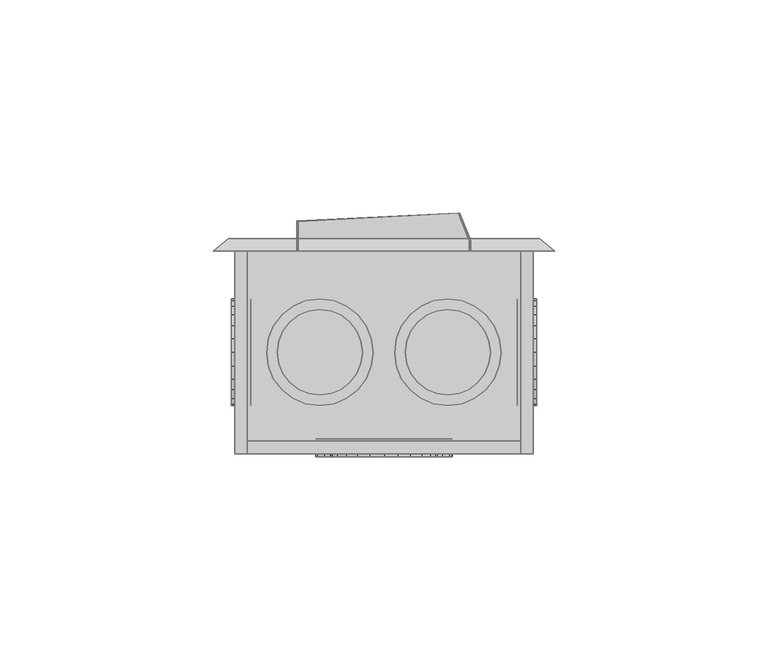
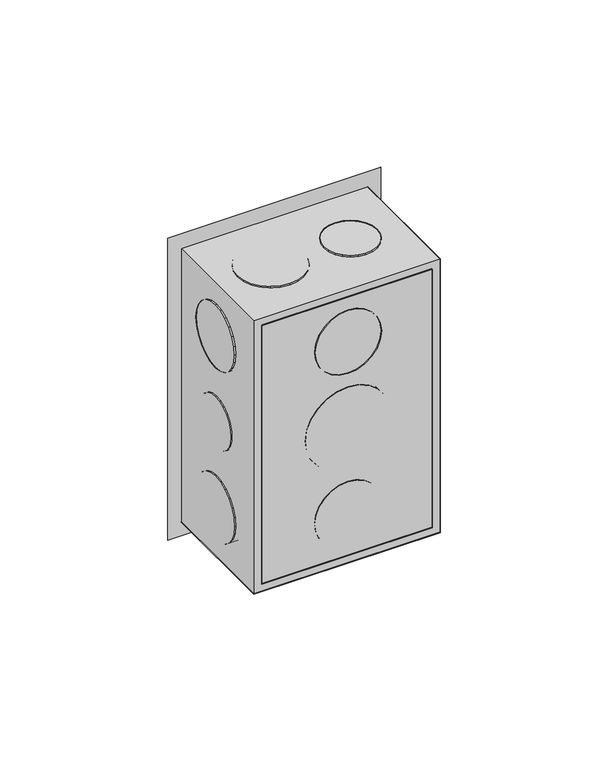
"""IFC4 building model written with IfcOpenShell, lengths in millimetres: proxy geometry,  210553 :  210553."""

from ifc_helpers import new_model, si_unit, origin, place, context, project, spatial, triangles, source, transform, mapped, element, save


def generic_models_f89abd0f(model_context):
    return source(origin(), model_context, "Body", "Tessellation", [
        triangles([(19915.700647, 15395.8997864, 1254.3000378), (19918.7004639, 15395.8997864, 1148.7000154), (19915.700647, 15395.8997864, 1145.6999805), (19918.7004639, 15395.8997864, 1251.2999302), (19985.7010254, 15395.8997864, 1254.3000378), (19982.6988831, 15395.8997864, 1251.2999302), (19985.7010254, 15395.8997864, 1145.6999805), (19982.6988831, 15395.8997864, 1148.7000154), (19918.7004639, 15348.4003601, 1251.2999302), (19918.7004639, 15348.4003601, 1148.7000154), (19985.7010254, 15348.4003601, 1254.3000378), (19985.7010254, 15348.4003601, 1145.6999805), (19982.6988831, 15348.4003601, 1251.2999302), (19915.700647, 15348.4003601, 1145.6999805), (19982.6988831, 15348.4003601, 1148.7000154), (19915.700647, 15348.4003601, 1254.3000378), (19918.7004639, 15351.400177, 1251.2999302), (19982.6988831, 15351.400177, 1148.7000154), (19918.7004639, 15351.400177, 1148.7000154), (19982.6988831, 15351.400177, 1251.2999302), (19942.698999, 15347.7004028, 1186.0999855), (19936.7993591, 15347.7004028, 1191.9999887), (19939.3992004, 15347.7004028, 1188.6999722), (19946.5010925, 15347.7004028, 1184.5000105), (19935.1994568, 15347.7004028, 1195.8999687), (19950.7008362, 15347.7004028, 1183.9999683), (19934.6994873, 15347.7004028, 1200.0000092), (19954.8005859, 15347.7004028, 1184.5000105), (19935.1994568, 15347.7004028, 1204.0999769), (19958.7003479, 15347.7004028, 1186.0999855), (19936.7993591, 15347.7004028, 1208.0000296), (19962.0001465, 15347.7004028, 1188.6999722), (19939.3992004, 15347.7004028, 1211.2999735), (19964.4999939, 15347.7004028, 1191.9999887), (19942.698999, 15347.7004028, 1213.9000328), (19966.0998962, 15347.7004028, 1195.8999687), (19946.5010925, 15347.7004028, 1215.5000078), (19966.6998596, 15347.7004028, 1200.0000092), (19950.7008362, 15347.7004028, 1215.9999773), (19966.0998962, 15347.7004028, 1204.0999769), (19954.8005859, 15347.7004028, 1215.5000078), (19964.4999939, 15347.7004028, 1208.0000296), (19958.7003479, 15347.7004028, 1213.9000328), (19962.0001465, 15347.7004028, 1211.2999735), (19946.5010925, 15351.9001465, 1215.5000078), (19950.7008362, 15351.9001465, 1215.9999773), (19942.698999, 15351.9001465, 1213.9000328), (19939.3992004, 15351.9001465, 1211.2999735), (19936.7993591, 15351.9001465, 1208.0000296), (19935.1994568, 15351.9001465, 1204.0999769), (19934.6994873, 15351.9001465, 1200.0000092), (19935.1994568, 15351.9001465, 1195.8999687), (19936.7993591, 15351.9001465, 1191.9999887), (19939.3992004, 15351.9001465, 1188.6999722), (19942.698999, 15351.9001465, 1186.0999855), (19946.5010925, 15351.9001465, 1184.5000105), (19950.7008362, 15351.9001465, 1183.9999683), (19954.8005859, 15351.9001465, 1184.5000105), (19958.7003479, 15351.9001465, 1186.0999855), (19962.0001465, 15351.9001465, 1188.6999722), (19964.4999939, 15351.9001465, 1191.9999887), (19966.0998962, 15351.9001465, 1195.8999687), (19966.6998596, 15351.9001465, 1200.0000092), (19966.0998962, 15351.9001465, 1204.0999769), (19964.4999939, 15351.9001465, 1208.0000296), (19962.0001465, 15351.9001465, 1211.2999735), (19958.7003479, 15351.9001465, 1213.9000328), (19954.8005859, 15351.9001465, 1215.5000078), (19939.799176, 15351.9001465, 1227.8000565), (19944.3988953, 15351.9001465, 1223.2000465), (19941.799054, 15351.9001465, 1225.2000698), (19938.5992493, 15351.9001465, 1230.8000187), (19947.4010376, 15351.9001465, 1221.8999805), (19938.1992737, 15351.9001465, 1233.9999687), (19950.7008362, 15351.9001465, 1221.500005), (19938.5992493, 15351.9001465, 1237.2000641), (19953.9006409, 15351.9001465, 1221.8999805), (19939.799176, 15351.9001465, 1240.3000202), (19956.9004578, 15351.9001465, 1223.2000465), (19941.799054, 15351.9001465, 1242.800013), (19959.5002991, 15351.9001465, 1225.2000698), (19961.500177, 15351.9001465, 1227.8000565), (19944.3988953, 15351.9001465, 1244.8000362), (19947.4010376, 15351.9001465, 1246.0999569), (19962.7001038, 15351.9001465, 1230.8000187), (19950.7008362, 15351.9001465, 1246.4999325), (19963.2000732, 15351.9001465, 1233.9999687), (19953.9006409, 15351.9001465, 1246.0999569), (19962.7001038, 15351.9001465, 1237.2000641), (19961.500177, 15351.9001465, 1240.3000202), (19956.9004578, 15351.9001465, 1244.8000362), (19959.5002991, 15351.9001465, 1242.800013), (19962.7001038, 15347.7004028, 1230.8000187), (19961.500177, 15347.7004028, 1227.8000565), (19959.5002991, 15347.7004028, 1225.2000698), (19956.9004578, 15347.7004028, 1223.2000465), (19953.9006409, 15347.7004028, 1221.8999805), (19950.7008362, 15347.7004028, 1221.500005), (19947.4010376, 15347.7004028, 1221.8999805), (19944.3988953, 15347.7004028, 1223.2000465), (19941.799054, 15347.7004028, 1225.2000698), (19939.799176, 15347.7004028, 1227.8000565), (19938.5992493, 15347.7004028, 1230.8000187), (19938.1992737, 15347.7004028, 1233.9999687), (19938.5992493, 15347.7004028, 1237.2000641), (19939.799176, 15347.7004028, 1240.3000202), (19941.799054, 15347.7004028, 1242.800013), (19944.3988953, 15347.7004028, 1244.8000362), (19947.4010376, 15347.7004028, 1246.0999569), (19950.7008362, 15347.7004028, 1246.4999325), (19953.9006409, 15347.7004028, 1246.0999569), (19956.9004578, 15347.7004028, 1244.8000362), (19959.5002991, 15347.7004028, 1242.800013), (19961.500177, 15347.7004028, 1240.3000202), (19962.7001038, 15347.7004028, 1237.2000641), (19963.2000732, 15347.7004028, 1233.9999687), (19944.3988953, 15347.7004028, 1155.1999821), (19939.799176, 15347.7004028, 1159.6999981), (19941.799054, 15347.7004028, 1157.2000053), (19947.4010376, 15347.7004028, 1153.8999887), (19938.5992493, 15347.7004028, 1162.8000269), (19950.7008362, 15347.7004028, 1153.5000132), (19938.1992737, 15347.7004028, 1165.9999769), (19953.9006409, 15347.7004028, 1153.8999887), (19938.5992493, 15347.7004028, 1169.1999996), (19956.9004578, 15347.7004028, 1155.1999821), (19939.799176, 15347.7004028, 1172.2000345), (19959.5002991, 15347.7004028, 1157.2000053), (19941.799054, 15347.7004028, 1174.8000212), (19961.500177, 15347.7004028, 1159.6999981), (19944.3988953, 15347.7004028, 1176.7999718), (19962.7001038, 15347.7004028, 1162.8000269), (19947.4010376, 15347.7004028, 1178.0999651), (19950.7008362, 15347.7004028, 1178.5000134), (19963.2000732, 15347.7004028, 1165.9999769), (19962.7001038, 15347.7004028, 1169.1999996), (19953.9006409, 15347.7004028, 1178.0999651), (19961.500177, 15347.7004028, 1172.2000345), (19956.9004578, 15347.7004028, 1176.7999718), (19959.5002991, 15347.7004028, 1174.8000212), (19947.4010376, 15351.9001465, 1178.0999651), (19950.7008362, 15351.9001465, 1178.5000134), (19944.3988953, 15351.9001465, 1176.7999718), (19941.799054, 15351.9001465, 1174.8000212), (19939.799176, 15351.9001465, 1172.2000345), (19938.5992493, 15351.9001465, 1169.1999996), (19938.1992737, 15351.9001465, 1165.9999769), (19938.5992493, 15351.9001465, 1162.8000269), (19939.799176, 15351.9001465, 1159.6999981), (19941.799054, 15351.9001465, 1157.2000053), (19944.3988953, 15351.9001465, 1155.1999821), (19947.4010376, 15351.9001465, 1153.8999887), (19950.7008362, 15351.9001465, 1153.5000132), (19953.9006409, 15351.9001465, 1153.8999887), (19956.9004578, 15351.9001465, 1155.1999821), (19959.5002991, 15351.9001465, 1157.2000053), (19961.500177, 15351.9001465, 1159.6999981), (19962.7001038, 15351.9001465, 1162.8000269), (19963.2000732, 15351.9001465, 1165.9999769), (19962.7001038, 15351.9001465, 1169.1999996), (19961.500177, 15351.9001465, 1172.2000345), (19959.5002991, 15351.9001465, 1174.8000212), (19956.9004578, 15351.9001465, 1176.7999718), (19953.9006409, 15351.9001465, 1178.0999651), (19914.9006958, 15363.4994385, 1195.0000237), (19914.9006958, 15367.2003754, 1191.3000315), (19914.9006958, 15365.1005035, 1192.9000065), (19914.9006958, 15362.4994995, 1197.4000225), (19914.9006958, 15369.6002289, 1190.3000198), (19914.9006958, 15362.1995178, 1200.0000092), (19914.9006958, 15372.2000702, 1189.9999655), (19914.9006958, 15362.4994995, 1202.5999958), (19914.9006958, 15374.7999115, 1190.3000198), (19914.9006958, 15363.4994385, 1204.9999947), (19914.9006958, 15377.199765, 1191.3000315), (19914.9006958, 15365.1005035, 1207.1000118), (19914.9006958, 15379.2996368, 1192.9000065), (19914.9006958, 15367.2003754, 1208.6999868), (19914.9006958, 15380.8995392, 1195.0000237), (19914.9006958, 15369.6002289, 1209.6999985), (19914.9006958, 15381.8994781, 1197.4000225), (19914.9006958, 15382.1994598, 1200.0000092), (19914.9006958, 15372.2000702, 1209.9999802), (19914.9006958, 15374.7999115, 1209.6999985), (19914.9006958, 15381.8994781, 1202.5999958), (19914.9006958, 15377.199765, 1208.6999868), (19914.9006958, 15380.8995392, 1204.9999947), (19914.9006958, 15379.2996368, 1207.1000118), (19919.500415, 15369.6002289, 1209.6999985), (19919.500415, 15372.2000702, 1209.9999802), (19919.500415, 15374.7999115, 1209.6999985), (19919.500415, 15377.199765, 1208.6999868), (19919.500415, 15379.2996368, 1207.1000118), (19919.500415, 15380.8995392, 1204.9999947), (19919.500415, 15381.8994781, 1202.5999958), (19919.500415, 15382.1994598, 1200.0000092), (19919.500415, 15381.8994781, 1197.4000225), (19919.500415, 15380.8995392, 1195.0000237), (19919.500415, 15379.2996368, 1192.9000065), (19919.500415, 15377.199765, 1191.3000315), (19919.500415, 15374.7999115, 1190.3000198), (19919.500415, 15372.2000702, 1189.9999655), (19919.500415, 15369.6002289, 1190.3000198), (19919.500415, 15367.2003754, 1191.3000315), (19919.500415, 15365.1005035, 1192.9000065), (19919.500415, 15363.4994385, 1195.0000237), (19919.500415, 15362.4994995, 1197.4000225), (19919.500415, 15362.1995178, 1200.0000092), (19919.500415, 15362.4994995, 1202.5999958), (19919.500415, 15363.4994385, 1204.9999947), (19919.500415, 15365.1005035, 1207.1000118), (19919.500415, 15367.2003754, 1208.6999868), (19919.500415, 15365.9004547, 1223.2000465), (19919.500415, 15361.3995667, 1227.8000565), (19919.500415, 15363.3994446, 1225.2000698), (19919.500415, 15369.0002655, 1221.8999805), (19919.500415, 15360.099646, 1230.8000187), (19919.500415, 15359.6996704, 1233.9999687), (19919.500415, 15372.2000702, 1221.500005), (19919.500415, 15375.3998749, 1221.8999805), (19919.500415, 15360.099646, 1237.2000641), (19919.500415, 15361.3995667, 1240.3000202), (19919.500415, 15378.3996918, 1223.2000465), (19919.500415, 15380.9995331, 1225.2000698), (19919.500415, 15363.3994446, 1242.800013), (19919.500415, 15383.0005737, 1227.8000565), (19919.500415, 15365.9004547, 1244.8000362), (19919.500415, 15384.3004944, 1230.8000187), (19919.500415, 15369.0002655, 1246.0999569), (19919.500415, 15384.70047, 1233.9999687), (19919.500415, 15372.2000702, 1246.4999325), (19919.500415, 15384.3004944, 1237.2000641), (19919.500415, 15375.3998749, 1246.0999569), (19919.500415, 15383.0005737, 1240.3000202), (19919.500415, 15378.3996918, 1244.8000362), (19919.500415, 15380.9995331, 1242.800013), (19914.9006958, 15372.2000702, 1221.500005), (19914.9006958, 15369.0002655, 1221.8999805), (19914.9006958, 15375.3998749, 1221.8999805), (19914.9006958, 15378.3996918, 1223.2000465), (19914.9006958, 15380.9995331, 1225.2000698), (19914.9006958, 15383.0005737, 1227.8000565), (19914.9006958, 15384.3004944, 1230.8000187), (19914.9006958, 15384.70047, 1233.9999687), (19914.9006958, 15384.3004944, 1237.2000641), (19914.9006958, 15383.0005737, 1240.3000202), (19914.9006958, 15380.9995331, 1242.800013), (19914.9006958, 15378.3996918, 1244.8000362), (19914.9006958, 15375.3998749, 1246.0999569), (19914.9006958, 15372.2000702, 1246.4999325), (19914.9006958, 15369.0002655, 1246.0999569), (19914.9006958, 15365.9004547, 1244.8000362), (19914.9006958, 15363.3994446, 1242.800013), (19914.9006958, 15361.3995667, 1240.3000202), (19914.9006958, 15360.099646, 1237.2000641), (19914.9006958, 15359.6996704, 1233.9999687), (19914.9006958, 15360.099646, 1230.8000187), (19914.9006958, 15361.3995667, 1227.8000565), (19914.9006958, 15363.3994446, 1225.2000698), (19914.9006958, 15365.9004547, 1223.2000465), (19914.9006958, 15361.3995667, 1159.6999981), (19914.9006958, 15365.9004547, 1155.1999821), (19914.9006958, 15363.3994446, 1157.2000053), (19914.9006958, 15360.099646, 1162.8000269), (19914.9006958, 15369.0002655, 1153.8999887), (19914.9006958, 15359.6996704, 1165.9999769), (19914.9006958, 15372.2000702, 1153.5000132), (19914.9006958, 15360.099646, 1169.1999996), (19914.9006958, 15375.3998749, 1153.8999887), (19914.9006958, 15361.3995667, 1172.2000345), (19914.9006958, 15378.3996918, 1155.1999821), (19914.9006958, 15363.3994446, 1174.8000212), (19914.9006958, 15380.9995331, 1157.2000053), (19914.9006958, 15365.9004547, 1176.7999718), (19914.9006958, 15383.0005737, 1159.6999981), (19914.9006958, 15369.0002655, 1178.0999651), (19914.9006958, 15384.3004944, 1162.8000269), (19914.9006958, 15372.2000702, 1178.5000134), (19914.9006958, 15384.70047, 1165.9999769), (19914.9006958, 15375.3998749, 1178.0999651), (19914.9006958, 15384.3004944, 1169.1999996), (19914.9006958, 15378.3996918, 1176.7999718), (19914.9006958, 15383.0005737, 1172.2000345), (19914.9006958, 15380.9995331, 1174.8000212), (19919.500415, 15369.0002655, 1178.0999651), (19919.500415, 15372.2000702, 1178.5000134), (19919.500415, 15375.3998749, 1178.0999651), (19919.500415, 15378.3996918, 1176.7999718), (19919.500415, 15380.9995331, 1174.8000212), (19919.500415, 15383.0005737, 1172.2000345), (19919.500415, 15384.3004944, 1169.1999996), (19919.500415, 15384.70047, 1165.9999769), (19919.500415, 15384.3004944, 1162.8000269), (19919.500415, 15383.0005737, 1159.6999981), (19919.500415, 15380.9995331, 1157.2000053), (19919.500415, 15378.3996918, 1155.1999821), (19919.500415, 15375.3998749, 1153.8999887), (19919.500415, 15372.2000702, 1153.5000132), (19919.500415, 15369.0002655, 1153.8999887), (19919.500415, 15365.9004547, 1155.1999821), (19919.500415, 15363.3994446, 1157.2000053), (19919.500415, 15361.3995667, 1159.6999981), (19919.500415, 15360.099646, 1162.8000269), (19919.500415, 15359.6996704, 1165.9999769), (19919.500415, 15360.099646, 1169.1999996), (19919.500415, 15361.3995667, 1172.2000345), (19919.500415, 15363.3994446, 1174.8000212), (19919.500415, 15365.9004547, 1176.7999718), (19986.5009766, 15367.2003754, 1191.3000315), (19986.5009766, 15363.4994385, 1195.0000237), (19986.5009766, 15365.1005035, 1192.9000065), (19986.5009766, 15362.4994995, 1197.4000225), (19986.5009766, 15369.6002289, 1190.3000198), (19986.5009766, 15362.1995178, 1200.0000092), (19986.5009766, 15372.2000702, 1189.9999655), (19986.5009766, 15374.7999115, 1190.3000198), (19986.5009766, 15362.4994995, 1202.5999958), (19986.5009766, 15363.4994385, 1204.9999947), (19986.5009766, 15377.199765, 1191.3000315), (19986.5009766, 15365.1005035, 1207.1000118), (19986.5009766, 15379.2996368, 1192.9000065), (19986.5009766, 15380.8995392, 1195.0000237), (19986.5009766, 15367.2003754, 1208.6999868), (19986.5009766, 15381.8994781, 1197.4000225), (19986.5009766, 15369.6002289, 1209.6999985), (19986.5009766, 15382.1994598, 1200.0000092), (19986.5009766, 15372.2000702, 1209.9999802), (19986.5009766, 15381.8994781, 1202.5999958), (19986.5009766, 15374.7999115, 1209.6999985), (19986.5009766, 15377.199765, 1208.6999868), (19986.5009766, 15380.8995392, 1204.9999947), (19986.5009766, 15379.2996368, 1207.1000118), (19981.8989319, 15369.6002289, 1190.3000198), (19981.8989319, 15367.2003754, 1191.3000315), (19981.8989319, 15372.2000702, 1189.9999655), (19981.8989319, 15374.7999115, 1190.3000198), (19981.8989319, 15377.199765, 1191.3000315), (19981.8989319, 15379.2996368, 1192.9000065), (19981.8989319, 15380.8995392, 1195.0000237), (19981.8989319, 15381.8994781, 1197.4000225), (19981.8989319, 15382.1994598, 1200.0000092), (19981.8989319, 15381.8994781, 1202.5999958), (19981.8989319, 15380.8995392, 1204.9999947), (19981.8989319, 15379.2996368, 1207.1000118), (19981.8989319, 15377.199765, 1208.6999868), (19981.8989319, 15374.7999115, 1209.6999985), (19981.8989319, 15372.2000702, 1209.9999802), (19981.8989319, 15369.6002289, 1209.6999985), (19981.8989319, 15367.2003754, 1208.6999868), (19981.8989319, 15365.1005035, 1207.1000118), (19981.8989319, 15363.4994385, 1204.9999947), (19981.8989319, 15362.4994995, 1202.5999958), (19981.8989319, 15362.1995178, 1200.0000092), (19981.8989319, 15362.4994995, 1197.4000225), (19981.8989319, 15363.4994385, 1195.0000237), (19981.8989319, 15365.1005035, 1192.9000065), (19981.8989319, 15361.3995667, 1159.6999981), (19981.8989319, 15365.9004547, 1155.1999821), (19981.8989319, 15363.3994446, 1157.2000053), (19981.8989319, 15360.099646, 1162.8000269), (19981.8989319, 15369.0002655, 1153.8999887), (19981.8989319, 15359.6996704, 1165.9999769), (19981.8989319, 15372.2000702, 1153.5000132), (19981.8989319, 15360.099646, 1169.1999996), (19981.8989319, 15375.3998749, 1153.8999887), (19981.8989319, 15361.3995667, 1172.2000345), (19981.8989319, 15378.3996918, 1155.1999821), (19981.8989319, 15363.3994446, 1174.8000212), (19981.8989319, 15380.9995331, 1157.2000053), (19981.8989319, 15365.9004547, 1176.7999718), (19981.8989319, 15383.0005737, 1159.6999981), (19981.8989319, 15369.0002655, 1178.0999651), (19981.8989319, 15384.3004944, 1162.8000269), (19981.8989319, 15372.2000702, 1178.5000134), (19981.8989319, 15384.70047, 1165.9999769), (19981.8989319, 15375.3998749, 1178.0999651), (19981.8989319, 15384.3004944, 1169.1999996), (19981.8989319, 15378.3996918, 1176.7999718), (19981.8989319, 15383.0005737, 1172.2000345), (19981.8989319, 15380.9995331, 1174.8000212), (19986.5009766, 15369.0002655, 1178.0999651), (19986.5009766, 15372.2000702, 1178.5000134), (19986.5009766, 15375.3998749, 1178.0999651), (19986.5009766, 15378.3996918, 1176.7999718), (19986.5009766, 15380.9995331, 1174.8000212), (19986.5009766, 15383.0005737, 1172.2000345), (19986.5009766, 15384.3004944, 1169.1999996), (19986.5009766, 15384.70047, 1165.9999769), (19986.5009766, 15384.3004944, 1162.8000269), (19986.5009766, 15383.0005737, 1159.6999981), (19986.5009766, 15380.9995331, 1157.2000053), (19986.5009766, 15378.3996918, 1155.1999821), (19986.5009766, 15375.3998749, 1153.8999887), (19986.5009766, 15372.2000702, 1153.5000132), (19986.5009766, 15369.0002655, 1153.8999887), (19986.5009766, 15365.9004547, 1155.1999821), (19986.5009766, 15363.3994446, 1157.2000053), (19986.5009766, 15361.3995667, 1159.6999981), (19986.5009766, 15360.099646, 1162.8000269), (19986.5009766, 15359.6996704, 1165.9999769), (19986.5009766, 15360.099646, 1169.1999996), (19986.5009766, 15361.3995667, 1172.2000345), (19986.5009766, 15363.3994446, 1174.8000212), (19986.5009766, 15365.9004547, 1176.7999718), (19986.5009766, 15365.9004547, 1223.2000465), (19986.5009766, 15361.3995667, 1227.8000565), (19986.5009766, 15363.3994446, 1225.2000698), (19986.5009766, 15369.0002655, 1221.8999805), (19986.5009766, 15360.099646, 1230.8000187), (19986.5009766, 15359.6996704, 1233.9999687), (19986.5009766, 15372.2000702, 1221.500005), (19986.5009766, 15375.3998749, 1221.8999805), (19986.5009766, 15360.099646, 1237.2000641), (19986.5009766, 15361.3995667, 1240.3000202), (19986.5009766, 15378.3996918, 1223.2000465), (19986.5009766, 15380.9995331, 1225.2000698), (19986.5009766, 15363.3994446, 1242.800013), (19986.5009766, 15383.0005737, 1227.8000565), (19986.5009766, 15365.9004547, 1244.8000362), (19986.5009766, 15384.3004944, 1230.8000187), (19986.5009766, 15369.0002655, 1246.0999569), (19986.5009766, 15384.70047, 1233.9999687), (19986.5009766, 15372.2000702, 1246.4999325), (19986.5009766, 15384.3004944, 1237.2000641), (19986.5009766, 15375.3998749, 1246.0999569), (19986.5009766, 15383.0005737, 1240.3000202), (19986.5009766, 15378.3996918, 1244.8000362), (19986.5009766, 15380.9995331, 1242.800013), (19981.8989319, 15372.2000702, 1221.500005), (19981.8989319, 15369.0002655, 1221.8999805), (19981.8989319, 15375.3998749, 1221.8999805), (19981.8989319, 15378.3996918, 1223.2000465), (19981.8989319, 15380.9995331, 1225.2000698), (19981.8989319, 15383.0005737, 1227.8000565), (19981.8989319, 15384.3004944, 1230.8000187), (19981.8989319, 15384.70047, 1233.9999687), (19981.8989319, 15384.3004944, 1237.2000641), (19981.8989319, 15383.0005737, 1240.3000202), (19981.8989319, 15380.9995331, 1242.800013), (19981.8989319, 15378.3996918, 1244.8000362), (19981.8989319, 15375.3998749, 1246.0999569), (19981.8989319, 15372.2000702, 1246.4999325), (19981.8989319, 15369.0002655, 1246.0999569), (19981.8989319, 15365.9004547, 1244.8000362), (19981.8989319, 15363.3994446, 1242.800013), (19981.8989319, 15361.3995667, 1240.3000202), (19981.8989319, 15360.099646, 1237.2000641), (19981.8989319, 15359.6996704, 1233.9999687), (19981.8989319, 15360.099646, 1230.8000187), (19981.8989319, 15361.3995667, 1227.8000565), (19981.8989319, 15363.3994446, 1225.2000698), (19981.8989319, 15365.9004547, 1223.2000465), (19929.3998108, 15361.3995667, 1255.1999828), (19924.8000916, 15365.9004547, 1255.1999828), (19926.7999695, 15363.3994446, 1255.1999828), (19923.6001648, 15369.0002655, 1255.1999828), (19932.3996277, 15360.099646, 1255.1999828), (19935.6994263, 15359.6996704, 1255.1999828), (19923.2001892, 15372.2000702, 1255.1999828), (19923.6001648, 15375.3998749, 1255.1999828), (19938.899231, 15360.099646, 1255.1999828), (19941.8990479, 15361.3995667, 1255.1999828), (19924.8000916, 15378.3996918, 1255.1999828), (19926.7999695, 15380.9995331, 1255.1999828), (19944.4988892, 15363.3994446, 1255.1999828), (19946.5010925, 15365.9004547, 1255.1999828), (19929.3998108, 15383.0005737, 1255.1999828), (19932.3996277, 15384.3004944, 1255.1999828), (19947.7010193, 15369.0002655, 1255.1999828), (19935.6994263, 15384.70047, 1255.1999828), (19948.2009888, 15372.2000702, 1255.1999828), (19938.899231, 15384.3004944, 1255.1999828), (19947.7010193, 15375.3998749, 1255.1999828), (19946.5010925, 15378.3996918, 1255.1999828), (19941.8990479, 15383.0005737, 1255.1999828), (19944.4988892, 15380.9995331, 1255.1999828), (19935.6994263, 15384.70047, 1250.9999485), (19932.3996277, 15384.3004944, 1250.9999485), (19929.3998108, 15383.0005737, 1250.9999485), (19926.7999695, 15380.9995331, 1250.9999485), (19924.8000916, 15378.3996918, 1250.9999485), (19923.6001648, 15375.3998749, 1250.9999485), (19923.2001892, 15372.2000702, 1250.9999485), (19923.6001648, 15369.0002655, 1250.9999485), (19924.8000916, 15365.9004547, 1250.9999485), (19926.7999695, 15363.3994446, 1250.9999485), (19929.3998108, 15361.3995667, 1250.9999485), (19932.3996277, 15360.099646, 1250.9999485), (19935.6994263, 15359.6996704, 1250.9999485), (19938.899231, 15360.099646, 1250.9999485), (19941.8990479, 15361.3995667, 1250.9999485), (19944.4988892, 15363.3994446, 1250.9999485), (19946.5010925, 15365.9004547, 1250.9999485), (19947.7010193, 15369.0002655, 1250.9999485), (19948.2009888, 15372.2000702, 1250.9999485), (19947.7010193, 15375.3998749, 1250.9999485), (19946.5010925, 15378.3996918, 1250.9999485), (19944.4988892, 15380.9995331, 1250.9999485), (19941.8990479, 15383.0005737, 1250.9999485), (19938.899231, 15384.3004944, 1250.9999485), (19957.0004517, 15367.2003754, 1250.9999485), (19960.7002258, 15363.4994385, 1250.9999485), (19958.600354, 15365.1005035, 1250.9999485), (19963.1000793, 15362.4994995, 1250.9999485), (19956.0005127, 15369.6002289, 1250.9999485), (19965.6999207, 15362.1995178, 1250.9999485), (19955.700531, 15372.2000702, 1250.9999485), (19956.0005127, 15374.7999115, 1250.9999485), (19968.299762, 15362.4994995, 1250.9999485), (19970.6996155, 15363.4994385, 1250.9999485), (19957.0004517, 15377.199765, 1250.9999485), (19972.6994934, 15365.1005035, 1250.9999485), (19958.600354, 15379.2996368, 1250.9999485), (19960.7002258, 15380.8995392, 1250.9999485), (19974.2993958, 15367.2003754, 1250.9999485), (19975.2993347, 15369.6002289, 1250.9999485), (19963.1000793, 15381.8994781, 1250.9999485), (19965.6999207, 15382.1994598, 1250.9999485), (19975.6993103, 15372.2000702, 1250.9999485), (19968.299762, 15381.8994781, 1250.9999485), (19975.2993347, 15374.7999115, 1250.9999485), (19970.6996155, 15380.8995392, 1250.9999485), (19974.2993958, 15377.199765, 1250.9999485), (19972.6994934, 15379.2996368, 1250.9999485), (19968.299762, 15362.4994995, 1255.1999828), (19970.6996155, 15363.4994385, 1255.1999828), (19965.6999207, 15362.1995178, 1255.1999828), (19963.1000793, 15362.4994995, 1255.1999828), (19960.7002258, 15363.4994385, 1255.1999828), (19958.600354, 15365.1005035, 1255.1999828), (19957.0004517, 15367.2003754, 1255.1999828), (19956.0005127, 15369.6002289, 1255.1999828), (19955.700531, 15372.2000702, 1255.1999828), (19956.0005127, 15374.7999115, 1255.1999828), (19957.0004517, 15377.199765, 1255.1999828), (19958.600354, 15379.2996368, 1255.1999828), (19960.7002258, 15380.8995392, 1255.1999828), (19963.1000793, 15381.8994781, 1255.1999828), (19965.6999207, 15382.1994598, 1255.1999828), (19968.299762, 15381.8994781, 1255.1999828), (19970.6996155, 15380.8995392, 1255.1999828), (19972.6994934, 15379.2996368, 1255.1999828), (19974.2993958, 15377.199765, 1255.1999828), (19975.2993347, 15374.7999115, 1255.1999828), (19975.6993103, 15372.2000702, 1255.1999828), (19975.2993347, 15369.6002289, 1255.1999828), (19974.2993958, 15367.2003754, 1255.1999828), (19972.6994934, 15365.1005035, 1255.1999828), (19926.9999573, 15367.2003754, 1144.8000355), (19930.6997314, 15363.4994385, 1144.8000355), (19928.5998596, 15365.1005035, 1144.8000355), (19933.099585, 15362.4994995, 1144.8000355), (19926.0000183, 15369.6002289, 1144.8000355), (19935.6994263, 15362.1995178, 1144.8000355), (19925.7000366, 15372.2000702, 1144.8000355), (19926.0000183, 15374.7999115, 1144.8000355), (19938.2992676, 15362.4994995, 1144.8000355), (19940.6991211, 15363.4994385, 1144.8000355), (19926.9999573, 15377.199765, 1144.8000355), (19942.698999, 15365.1005035, 1144.8000355), (19928.5998596, 15379.2996368, 1144.8000355), (19930.6997314, 15380.8995392, 1144.8000355), (19944.2989014, 15367.2003754, 1144.8000355), (19945.2988403, 15369.6002289, 1144.8000355), (19933.099585, 15381.8994781, 1144.8000355), (19935.6994263, 15382.1994598, 1144.8000355), (19945.7011414, 15372.2000702, 1144.8000355), (19938.2992676, 15381.8994781, 1144.8000355), (19945.2988403, 15374.7999115, 1144.8000355), (19940.6991211, 15380.8995392, 1144.8000355), (19944.2989014, 15377.199765, 1144.8000355), (19942.698999, 15379.2996368, 1144.8000355), (19933.099585, 15362.4994995, 1149.099991), (19935.6994263, 15362.1995178, 1149.099991), (19930.6997314, 15363.4994385, 1149.099991), (19928.5998596, 15365.1005035, 1149.099991), (19926.9999573, 15367.2003754, 1149.099991), (19926.0000183, 15369.6002289, 1149.099991), (19925.7000366, 15372.2000702, 1149.099991), (19926.0000183, 15374.7999115, 1149.099991), (19926.9999573, 15377.199765, 1149.099991), (19928.5998596, 15379.2996368, 1149.099991), (19930.6997314, 15380.8995392, 1149.099991), (19933.099585, 15381.8994781, 1149.099991), (19935.6994263, 15382.1994598, 1149.099991), (19938.2992676, 15381.8994781, 1149.099991), (19940.6991211, 15380.8995392, 1149.099991), (19942.698999, 15379.2996368, 1149.099991), (19944.2989014, 15377.199765, 1149.099991), (19945.2988403, 15374.7999115, 1149.099991), (19945.7011414, 15372.2000702, 1149.099991), (19945.2988403, 15369.6002289, 1149.099991), (19944.2989014, 15367.2003754, 1149.099991), (19942.698999, 15365.1005035, 1149.099991), (19940.6991211, 15363.4994385, 1149.099991), (19938.2992676, 15362.4994995, 1149.099991), (19954.8005859, 15365.9004547, 1144.8000355), (19959.4003052, 15361.3995667, 1144.8000355), (19956.8004639, 15363.3994446, 1144.8000355), (19953.6006592, 15369.0002655, 1144.8000355), (19962.4001221, 15360.099646, 1144.8000355), (19965.6999207, 15359.6996704, 1144.8000355), (19953.2006836, 15372.2000702, 1144.8000355), (19953.6006592, 15375.3998749, 1144.8000355), (19968.8997253, 15360.099646, 1144.8000355), (19971.8995422, 15361.3995667, 1144.8000355), (19954.8005859, 15378.3996918, 1144.8000355), (19956.8004639, 15380.9995331, 1144.8000355), (19974.4993835, 15363.3994446, 1144.8000355), (19976.4992615, 15365.9004547, 1144.8000355), (19959.4003052, 15383.0005737, 1144.8000355), (19962.4001221, 15384.3004944, 1144.8000355), (19977.6991882, 15369.0002655, 1144.8000355), (19965.6999207, 15384.70047, 1144.8000355), (19978.1991577, 15372.2000702, 1144.8000355), (19968.8997253, 15384.3004944, 1144.8000355), (19977.6991882, 15375.3998749, 1144.8000355), (19976.4992615, 15378.3996918, 1144.8000355), (19971.8995422, 15383.0005737, 1144.8000355), (19974.4993835, 15380.9995331, 1144.8000355), (19968.8997253, 15360.099646, 1149.099991), (19971.8995422, 15361.3995667, 1149.099991), (19965.6999207, 15359.6996704, 1149.099991), (19962.4001221, 15360.099646, 1149.099991), (19959.4003052, 15361.3995667, 1149.099991), (19956.8004639, 15363.3994446, 1149.099991), (19954.8005859, 15365.9004547, 1149.099991), (19953.6006592, 15369.0002655, 1149.099991), (19953.2006836, 15372.2000702, 1149.099991), (19953.6006592, 15375.3998749, 1149.099991), (19954.8005859, 15378.3996918, 1149.099991), (19956.8004639, 15380.9995331, 1149.099991), (19959.4003052, 15383.0005737, 1149.099991), (19962.4001221, 15384.3004944, 1149.099991), (19965.6999207, 15384.70047, 1149.099991), (19968.8997253, 15384.3004944, 1149.099991), (19971.8995422, 15383.0005737, 1149.099991), (19974.4993835, 15380.9995331, 1149.099991), (19976.4992615, 15378.3996918, 1149.099991), (19977.6991882, 15375.3998749, 1149.099991), (19978.1991577, 15372.2000702, 1149.099991), (19977.6991882, 15369.0002655, 1149.099991), (19976.4992615, 15365.9004547, 1149.099991), (19974.4993835, 15363.3994446, 1149.099991), (19990.7007202, 15395.8997864, 1139.9999651), (19930.4997437, 15395.8997864, 1164.5999897), (19910.7009521, 15395.8997864, 1139.9999651), (19970.8996033, 15395.8997864, 1164.5999897), (19990.7007202, 15395.8997864, 1259.9999805), (19970.8996033, 15395.8997864, 1188.0000149), (19970.8996033, 15395.8997864, 1211.3999674), (19970.8996033, 15395.8997864, 1234.8000652), (19910.7009521, 15395.8997864, 1259.9999805), (19930.4997437, 15395.8997864, 1188.0000149), (19930.4997437, 15395.8997864, 1211.3999674), (19930.4997437, 15395.8997864, 1234.8000652), (19930.4997437, 15398.8996033, 1188.0000149), (19970.8996033, 15398.8996033, 1188.0000149), (19930.4997437, 15398.8996033, 1234.8000652), (19970.8996033, 15398.8996033, 1234.8000652), (19970.8996033, 15398.8996033, 1164.5999897), (19970.8996033, 15398.8996033, 1211.3999674), (19930.4997437, 15398.8996033, 1164.5999897), (19930.4997437, 15398.8996033, 1211.3999674), (19914.2007385, 15398.8996033, 1143.4999695), (19914.2007385, 15398.8996033, 1256.5000488), (19987.2009338, 15398.8996033, 1143.4999695), (19987.2009338, 15398.8996033, 1256.5000488), (19930.5997375, 15402.9005219, 1211.2999735), (19970.9995972, 15395.8997864, 1211.2999735), (19930.5997375, 15395.8997864, 1211.2999735), (19968.3997559, 15404.8004059, 1211.2999735), (19970.9995972, 15398.3996338, 1211.2999735), (19930.5997375, 15395.8997864, 1234.7000713), (19970.9995972, 15395.8997864, 1234.7000713), (19930.5997375, 15402.9005219, 1234.7000713), (19968.3997559, 15404.8004059, 1234.7000713), (19970.9995972, 15398.3996338, 1234.7000713), (19930.2997559, 15402.9005219, 1164.6999836), (19970.6996155, 15395.8997864, 1164.6999836), (19930.2997559, 15395.8997864, 1164.6999836), (19968.0997742, 15404.8004059, 1164.6999836), (19970.6996155, 15398.3996338, 1164.6999836), (19930.2997559, 15395.8997864, 1188.1000088), (19970.6996155, 15395.8997864, 1188.1000088), (19930.2997559, 15402.9005219, 1188.1000088), (19968.0997742, 15404.8004059, 1188.1000088), (19970.6996155, 15398.3996338, 1188.1000088)], [[1, 2, 3], [2, 1, 4], [5, 4, 1], [4, 5, 6], [3, 2, 7], [7, 2, 8], [7, 8, 6], [7, 6, 5], [2, 9, 10], [9, 2, 4], [7, 11, 12], [11, 7, 5], [4, 13, 9], [13, 4, 6], [3, 12, 14], [12, 3, 7], [13, 8, 15], [8, 13, 6], [16, 3, 14], [3, 16, 1], [15, 2, 10], [2, 15, 8], [11, 1, 16], [1, 11, 5], [12, 10, 14], [10, 12, 15], [11, 15, 12], [15, 11, 13], [14, 10, 16], [16, 10, 9], [16, 9, 13], [16, 13, 11], [17, 18, 19], [18, 17, 20], [18, 13, 15], [13, 18, 20], [19, 15, 10], [15, 19, 18], [9, 19, 10], [19, 9, 17], [13, 17, 9], [17, 13, 20], [15, 9, 10], [9, 15, 13], [21, 22, 23], [22, 21, 24], [25, 22, 24], [25, 24, 26], [27, 25, 26], [27, 26, 28], [29, 27, 28], [29, 28, 30], [31, 29, 30], [31, 30, 32], [31, 32, 33], [33, 32, 34], [33, 34, 35], [35, 34, 36], [35, 36, 37], [37, 36, 38], [37, 38, 39], [39, 38, 40], [39, 40, 41], [41, 40, 42], [41, 42, 43], [43, 42, 44], [39, 45, 37], [45, 39, 46], [37, 47, 35], [47, 37, 45], [35, 48, 33], [48, 35, 47], [33, 49, 31], [49, 33, 48], [31, 50, 29], [50, 31, 49], [29, 51, 27], [51, 29, 50], [27, 52, 25], [52, 27, 51], [25, 53, 22], [53, 25, 52], [22, 54, 23], [54, 22, 53], [54, 21, 23], [21, 54, 55], [55, 24, 21], [24, 55, 56], [56, 26, 24], [26, 56, 57], [57, 28, 26], [28, 57, 58], [58, 30, 28], [30, 58, 59], [59, 32, 30], [32, 59, 60], [60, 34, 32], [34, 60, 61], [61, 36, 34], [36, 61, 62], [62, 38, 36], [38, 62, 63], [63, 40, 38], [40, 63, 64], [64, 42, 40], [42, 64, 65], [65, 44, 42], [44, 65, 66], [44, 67, 43], [67, 44, 66], [43, 68, 41], [68, 43, 67], [41, 46, 39], [46, 41, 68], [53, 55, 54], [55, 53, 52], [56, 55, 52], [56, 52, 51], [57, 56, 51], [57, 51, 50], [58, 57, 50], [58, 50, 49], [59, 58, 49], [59, 49, 48], [59, 48, 60], [60, 48, 47], [60, 47, 61], [61, 47, 45], [61, 45, 62], [62, 45, 46], [62, 46, 63], [63, 46, 68], [63, 68, 64], [64, 68, 67], [64, 67, 65], [65, 67, 66], [69, 70, 71], [70, 69, 72], [73, 70, 72], [73, 72, 74], [75, 73, 74], [75, 74, 76], [77, 75, 76], [77, 76, 78], [79, 77, 78], [79, 78, 80], [81, 79, 80], [81, 80, 82], [82, 80, 83], [82, 83, 84], [82, 84, 85], [85, 84, 86], [85, 86, 87], [87, 86, 88], [87, 88, 89], [89, 88, 90], [90, 88, 91], [90, 91, 92], [82, 93, 94], [93, 82, 85], [81, 94, 95], [94, 81, 82], [79, 95, 96], [95, 79, 81], [77, 96, 97], [96, 77, 79], [75, 97, 98], [97, 75, 77], [73, 98, 99], [98, 73, 75], [70, 99, 100], [99, 70, 73], [71, 100, 101], [100, 71, 70], [102, 71, 101], [71, 102, 69], [103, 69, 102], [69, 103, 72], [104, 72, 103], [72, 104, 74], [105, 74, 104], [74, 105, 76], [106, 76, 105], [76, 106, 78], [107, 78, 106], [78, 107, 80], [108, 80, 107], [80, 108, 83], [109, 83, 108], [83, 109, 84], [110, 84, 109], [84, 110, 86], [111, 86, 110], [86, 111, 88], [112, 88, 111], [88, 112, 91], [113, 91, 112], [91, 113, 92], [90, 113, 114], [113, 90, 92], [89, 114, 115], [114, 89, 90], [87, 115, 116], [115, 87, 89], [85, 116, 93], [116, 85, 87], [100, 102, 101], [102, 100, 99], [103, 102, 99], [103, 99, 98], [104, 103, 98], [104, 98, 97], [105, 104, 97], [106, 105, 97], [106, 97, 96], [106, 96, 95], [106, 95, 107], [107, 95, 94], [107, 94, 108], [108, 94, 93], [108, 93, 109], [109, 93, 116], [109, 116, 110], [110, 116, 115], [110, 115, 111], [111, 115, 114], [111, 114, 112], [112, 114, 113], [117, 118, 119], [118, 117, 120], [121, 118, 120], [121, 120, 122], [123, 121, 122], [123, 122, 124], [125, 123, 124], [125, 124, 126], [127, 125, 126], [127, 126, 128], [127, 128, 129], [129, 128, 130], [129, 130, 131], [131, 130, 132], [131, 132, 133], [133, 132, 134], [134, 132, 135], [134, 135, 136], [134, 136, 137], [137, 136, 138], [137, 138, 139], [139, 138, 140], [134, 141, 133], [141, 134, 142], [133, 143, 131], [143, 133, 141], [131, 144, 129], [144, 131, 143], [129, 145, 127], [145, 129, 144], [127, 146, 125], [146, 127, 145], [125, 147, 123], [147, 125, 146], [123, 148, 121], [148, 123, 147], [121, 149, 118], [149, 121, 148], [118, 150, 119], [150, 118, 149], [150, 117, 119], [117, 150, 151], [151, 120, 117], [120, 151, 152], [152, 122, 120], [122, 152, 153], [153, 124, 122], [124, 153, 154], [154, 126, 124], [126, 154, 155], [155, 128, 126], [128, 155, 156], [156, 130, 128], [130, 156, 157], [157, 132, 130], [132, 157, 158], [158, 135, 132], [135, 158, 159], [159, 136, 135], [136, 159, 160], [160, 138, 136], [138, 160, 161], [161, 140, 138], [140, 161, 162], [140, 163, 139], [163, 140, 162], [139, 164, 137], [164, 139, 163], [137, 142, 134], [142, 137, 164], [149, 151, 150], [151, 149, 148], [152, 151, 148], [153, 152, 148], [153, 148, 147], [153, 147, 146], [154, 153, 146], [154, 146, 145], [155, 154, 145], [155, 145, 144], [156, 155, 144], [156, 144, 157], [157, 144, 143], [157, 143, 141], [157, 141, 158], [158, 141, 142], [158, 142, 159], [159, 142, 164], [159, 164, 160], [160, 164, 163], [160, 163, 161], [161, 163, 162], [165, 166, 167], [166, 165, 168], [169, 166, 168], [169, 168, 170], [171, 169, 170], [171, 170, 172], [173, 171, 172], [173, 172, 174], [175, 173, 174], [175, 174, 176], [177, 175, 176], [177, 176, 178], [177, 178, 179], [179, 178, 180], [179, 180, 181], [181, 180, 182], [182, 180, 183], [182, 183, 184], [182, 184, 185], [185, 184, 186], [185, 186, 187], [187, 186, 188], [189, 183, 180], [183, 189, 190], [190, 184, 183], [184, 190, 191], [191, 186, 184], [186, 191, 192], [192, 188, 186], [188, 192, 193], [188, 194, 187], [194, 188, 193], [187, 195, 185], [195, 187, 194], [185, 196, 182], [196, 185, 195], [182, 197, 181], [197, 182, 196], [181, 198, 179], [198, 181, 197], [179, 199, 177], [199, 179, 198], [177, 200, 175], [200, 177, 199], [175, 201, 173], [201, 175, 200], [173, 202, 171], [202, 173, 201], [171, 203, 169], [203, 171, 202], [169, 204, 166], [204, 169, 203], [166, 205, 167], [205, 166, 204], [205, 165, 167], [165, 205, 206], [206, 168, 165], [168, 206, 207], [207, 170, 168], [170, 207, 208], [208, 172, 170], [172, 208, 209], [209, 174, 172], [174, 209, 210], [210, 176, 174], [176, 210, 211], [211, 178, 176], [178, 211, 212], [212, 180, 178], [180, 212, 189], [204, 206, 205], [207, 206, 204], [207, 204, 203], [208, 207, 203], [208, 203, 202], [208, 202, 201], [209, 208, 201], [210, 209, 201], [210, 201, 200], [211, 210, 200], [211, 200, 199], [211, 199, 198], [211, 198, 212], [212, 198, 197], [212, 197, 189], [189, 197, 196], [189, 196, 190], [190, 196, 195], [190, 195, 191], [191, 195, 192], [192, 195, 194], [192, 194, 193], [213, 214, 215], [214, 213, 216], [217, 214, 216], [218, 217, 216], [218, 216, 219], [218, 219, 220], [221, 218, 220], [222, 221, 220], [222, 220, 223], [222, 223, 224], [222, 224, 225], [225, 224, 226], [225, 226, 227], [227, 226, 228], [227, 228, 229], [229, 228, 230], [229, 230, 231], [231, 230, 232], [231, 232, 233], [233, 232, 234], [233, 234, 235], [235, 234, 236], [237, 216, 238], [216, 237, 219], [239, 219, 237], [219, 239, 220], [240, 220, 239], [220, 240, 223], [241, 223, 240], [223, 241, 224], [242, 224, 241], [224, 242, 226], [243, 226, 242], [226, 243, 228], [244, 228, 243], [228, 244, 230], [245, 230, 244], [230, 245, 232], [246, 232, 245], [232, 246, 234], [247, 234, 246], [234, 247, 236], [235, 247, 248], [247, 235, 236], [233, 248, 249], [248, 233, 235], [231, 249, 250], [249, 231, 233], [229, 250, 251], [250, 229, 231], [227, 251, 252], [251, 227, 229], [225, 252, 253], [252, 225, 227], [222, 253, 254], [253, 222, 225], [221, 254, 255], [254, 221, 222], [218, 255, 256], [255, 218, 221], [217, 256, 257], [256, 217, 218], [214, 257, 258], [257, 214, 217], [215, 258, 259], [258, 215, 214], [260, 215, 259], [215, 260, 213], [238, 213, 260], [213, 238, 216], [258, 260, 259], [260, 258, 257], [238, 260, 257], [238, 257, 256], [237, 238, 256], [237, 256, 255], [239, 237, 255], [239, 255, 254], [240, 239, 254], [240, 254, 253], [240, 253, 241], [241, 253, 252], [241, 252, 242], [242, 252, 251], [242, 251, 243], [243, 251, 244], [244, 251, 250], [244, 250, 249], [244, 249, 245], [245, 249, 246], [246, 249, 248], [246, 248, 247], [261, 262, 263], [262, 261, 264], [265, 262, 264], [265, 264, 266], [267, 265, 266], [267, 266, 268], [269, 267, 268], [269, 268, 270], [271, 269, 270], [271, 270, 272], [271, 272, 273], [273, 272, 274], [273, 274, 275], [275, 274, 276], [275, 276, 277], [277, 276, 278], [277, 278, 279], [279, 278, 280], [279, 280, 281], [281, 280, 282], [281, 282, 283], [283, 282, 284], [285, 278, 276], [278, 285, 286], [286, 280, 278], [280, 286, 287], [287, 282, 280], [282, 287, 288], [288, 284, 282], [284, 288, 289], [284, 290, 283], [290, 284, 289], [283, 291, 281], [291, 283, 290], [281, 292, 279], [292, 281, 291], [279, 293, 277], [293, 279, 292], [277, 294, 275], [294, 277, 293], [275, 295, 273], [295, 275, 294], [273, 296, 271], [296, 273, 295], [271, 297, 269], [297, 271, 296], [269, 298, 267], [298, 269, 297], [267, 299, 265], [299, 267, 298], [265, 300, 262], [300, 265, 299], [262, 301, 263], [301, 262, 300], [301, 261, 263], [261, 301, 302], [302, 264, 261], [264, 302, 303], [303, 266, 264], [266, 303, 304], [304, 268, 266], [268, 304, 305], [305, 270, 268], [270, 305, 306], [306, 272, 270], [272, 306, 307], [307, 274, 272], [274, 307, 308], [308, 276, 274], [276, 308, 285], [300, 302, 301], [302, 300, 299], [303, 302, 299], [303, 299, 298], [304, 303, 298], [304, 298, 297], [305, 304, 297], [305, 297, 296], [306, 305, 296], [306, 296, 295], [306, 295, 307], [307, 295, 294], [307, 294, 308], [308, 294, 293], [308, 293, 285], [285, 293, 286], [286, 293, 292], [286, 292, 291], [286, 291, 287], [287, 291, 288], [288, 291, 290], [288, 290, 289], [309, 310, 311], [312, 310, 309], [312, 309, 313], [314, 312, 313], [314, 313, 315], [314, 315, 316], [317, 314, 316], [318, 317, 316], [318, 316, 319], [320, 318, 319], [320, 319, 321], [320, 321, 322], [320, 322, 323], [323, 322, 324], [323, 324, 325], [325, 324, 326], [325, 326, 327], [327, 326, 328], [327, 328, 329], [329, 328, 330], [330, 328, 331], [330, 331, 332], [333, 309, 334], [309, 333, 313], [335, 313, 333], [313, 335, 315], [336, 315, 335], [315, 336, 316], [337, 316, 336], [316, 337, 319], [338, 319, 337], [319, 338, 321], [339, 321, 338], [321, 339, 322], [340, 322, 339], [322, 340, 324], [341, 324, 340], [324, 341, 326], [342, 326, 341], [326, 342, 328], [343, 328, 342], [328, 343, 331], [344, 331, 343], [331, 344, 332], [330, 344, 345], [344, 330, 332], [329, 345, 346], [345, 329, 330], [327, 346, 347], [346, 327, 329], [325, 347, 348], [347, 325, 327], [323, 348, 349], [348, 323, 325], [320, 349, 350], [349, 320, 323], [318, 350, 351], [350, 318, 320], [317, 351, 352], [351, 317, 318], [314, 352, 353], [352, 314, 317], [312, 353, 354], [353, 312, 314], [310, 354, 355], [354, 310, 312], [311, 355, 356], [355, 311, 310], [334, 311, 356], [311, 334, 309], [355, 334, 356], [334, 355, 354], [333, 334, 354], [333, 354, 353], [335, 333, 353], [335, 353, 352], [336, 335, 352], [336, 352, 351], [337, 336, 351], [337, 351, 350], [338, 337, 350], [338, 350, 349], [338, 349, 339], [339, 349, 348], [339, 348, 340], [340, 348, 341], [341, 348, 347], [341, 347, 346], [341, 346, 342], [342, 346, 345], [342, 345, 343], [343, 345, 344], [357, 358, 359], [358, 357, 360], [361, 358, 360], [361, 360, 362], [363, 361, 362], [363, 362, 364], [365, 363, 364], [365, 364, 366], [367, 365, 366], [367, 366, 368], [367, 368, 369], [369, 368, 370], [369, 370, 371], [371, 370, 372], [371, 372, 373], [373, 372, 374], [373, 374, 375], [375, 374, 376], [375, 376, 377], [377, 376, 378], [377, 378, 379], [379, 378, 380], [381, 374, 372], [374, 381, 382], [382, 376, 374], [376, 382, 383], [383, 378, 376], [378, 383, 384], [384, 380, 378], [380, 384, 385], [380, 386, 379], [386, 380, 385], [379, 387, 377], [387, 379, 386], [377, 388, 375], [388, 377, 387], [375, 389, 373], [389, 375, 388], [373, 390, 371], [390, 373, 389], [371, 391, 369], [391, 371, 390], [369, 392, 367], [392, 369, 391], [367, 393, 365], [393, 367, 392], [365, 394, 363], [394, 365, 393], [363, 395, 361], [395, 363, 394], [361, 396, 358], [396, 361, 395], [358, 397, 359], [397, 358, 396], [397, 357, 359], [357, 397, 398], [398, 360, 357], [360, 398, 399], [399, 362, 360], [362, 399, 400], [400, 364, 362], [364, 400, 401], [401, 366, 364], [366, 401, 402], [402, 368, 366], [368, 402, 403], [403, 370, 368], [370, 403, 404], [404, 372, 370], [372, 404, 381], [396, 398, 397], [398, 396, 395], [399, 398, 395], [399, 395, 394], [400, 399, 394], [400, 394, 393], [401, 400, 393], [401, 393, 392], [402, 401, 392], [402, 392, 391], [402, 391, 403], [403, 391, 390], [403, 390, 404], [404, 390, 389], [404, 389, 381], [381, 389, 382], [382, 389, 388], [382, 388, 387], [382, 387, 383], [383, 387, 384], [384, 387, 386], [384, 386, 385], [405, 406, 407], [406, 405, 408], [409, 406, 408], [410, 409, 408], [410, 408, 411], [410, 411, 412], [413, 410, 412], [414, 413, 412], [414, 412, 415], [414, 415, 416], [414, 416, 417], [417, 416, 418], [417, 418, 419], [419, 418, 420], [419, 420, 421], [421, 420, 422], [421, 422, 423], [423, 422, 424], [423, 424, 425], [425, 424, 426], [425, 426, 427], [427, 426, 428], [429, 408, 430], [408, 429, 411], [431, 411, 429], [411, 431, 412], [432, 412, 431], [412, 432, 415], [433, 415, 432], [415, 433, 416], [434, 416, 433], [416, 434, 418], [435, 418, 434], [418, 435, 420], [436, 420, 435], [420, 436, 422], [437, 422, 436], [422, 437, 424], [438, 424, 437], [424, 438, 426], [439, 426, 438], [426, 439, 428], [427, 439, 440], [439, 427, 428], [425, 440, 441], [440, 425, 427], [423, 441, 442], [441, 423, 425], [421, 442, 443], [442, 421, 423], [419, 443, 444], [443, 419, 421], [417, 444, 445], [444, 417, 419], [414, 445, 446], [445, 414, 417], [413, 446, 447], [446, 413, 414], [410, 447, 448], [447, 410, 413], [409, 448, 449], [448, 409, 410], [406, 449, 450], [449, 406, 409], [407, 450, 451], [450, 407, 406], [452, 407, 451], [407, 452, 405], [430, 405, 452], [405, 430, 408], [450, 452, 451], [452, 450, 449], [430, 452, 449], [430, 449, 448], [429, 430, 448], [429, 448, 447], [431, 429, 447], [431, 447, 446], [432, 431, 446], [432, 446, 445], [432, 445, 433], [433, 445, 444], [433, 444, 434], [434, 444, 443], [434, 443, 435], [435, 443, 436], [436, 443, 442], [436, 442, 441], [436, 441, 437], [437, 441, 438], [438, 441, 440], [438, 440, 439], [453, 454, 455], [456, 454, 453], [456, 453, 457], [456, 457, 458], [459, 456, 458], [460, 459, 458], [460, 458, 461], [460, 461, 462], [463, 460, 462], [464, 463, 462], [464, 462, 465], [464, 465, 466], [464, 466, 467], [467, 466, 468], [468, 466, 469], [468, 469, 470], [470, 469, 471], [470, 471, 472], [472, 471, 473], [472, 473, 474], [472, 474, 475], [475, 474, 476], [468, 477, 478], [477, 468, 470], [467, 478, 479], [478, 467, 468], [464, 479, 480], [479, 464, 467], [463, 480, 481], [480, 463, 464], [460, 481, 482], [481, 460, 463], [459, 482, 483], [482, 459, 460], [456, 483, 484], [483, 456, 459], [454, 484, 485], [484, 454, 456], [455, 485, 486], [485, 455, 454], [487, 455, 486], [455, 487, 453], [488, 453, 487], [453, 488, 457], [489, 457, 488], [457, 489, 458], [490, 458, 489], [458, 490, 461], [491, 461, 490], [461, 491, 462], [492, 462, 491], [462, 492, 465], [493, 465, 492], [465, 493, 466], [494, 466, 493], [466, 494, 469], [495, 469, 494], [469, 495, 471], [496, 471, 495], [471, 496, 473], [497, 473, 496], [473, 497, 474], [498, 474, 497], [474, 498, 476], [475, 498, 499], [498, 475, 476], [472, 499, 500], [499, 472, 475], [470, 500, 477], [500, 470, 472], [485, 487, 486], [487, 485, 484], [488, 487, 484], [489, 488, 484], [489, 484, 483], [489, 483, 482], [490, 489, 482], [491, 490, 482], [491, 482, 481], [491, 481, 480], [492, 491, 480], [492, 480, 493], [493, 480, 479], [493, 479, 478], [493, 478, 494], [494, 478, 477], [494, 477, 495], [495, 477, 500], [495, 500, 496], [496, 500, 497], [497, 500, 499], [497, 499, 498], [501, 502, 503], [504, 502, 501], [504, 501, 505], [506, 504, 505], [506, 505, 507], [506, 507, 508], [509, 506, 508], [510, 509, 508], [510, 508, 511], [512, 510, 511], [512, 511, 513], [512, 513, 514], [512, 514, 515], [515, 514, 516], [516, 514, 517], [516, 517, 518], [516, 518, 519], [519, 518, 520], [519, 520, 521], [521, 520, 522], [521, 522, 523], [523, 522, 524], [510, 525, 509], [525, 510, 526], [509, 527, 506], [527, 509, 525], [506, 528, 504], [528, 506, 527], [504, 529, 502], [529, 504, 528], [502, 530, 503], [530, 502, 529], [530, 501, 503], [501, 530, 531], [531, 505, 501], [505, 531, 532], [532, 507, 505], [507, 532, 533], [533, 508, 507], [508, 533, 534], [534, 511, 508], [511, 534, 535], [535, 513, 511], [513, 535, 536], [536, 514, 513], [514, 536, 537], [537, 517, 514], [517, 537, 538], [538, 518, 517], [518, 538, 539], [539, 520, 518], [520, 539, 540], [540, 522, 520], [522, 540, 541], [541, 524, 522], [524, 541, 542], [524, 543, 523], [543, 524, 542], [523, 544, 521], [544, 523, 543], [521, 545, 519], [545, 521, 544], [519, 546, 516], [546, 519, 545], [516, 547, 515], [547, 516, 546], [515, 548, 512], [548, 515, 547], [512, 526, 510], [526, 512, 548], [529, 531, 530], [531, 529, 528], [532, 531, 528], [532, 528, 527], [533, 532, 527], [534, 533, 527], [534, 527, 525], [534, 525, 526], [535, 534, 526], [535, 526, 548], [536, 535, 548], [536, 548, 537], [537, 548, 547], [537, 547, 546], [537, 546, 538], [538, 546, 539], [539, 546, 545], [539, 545, 540], [540, 545, 544], [540, 544, 541], [541, 544, 543], [541, 543, 542], [549, 550, 551], [552, 550, 549], [552, 549, 553], [554, 552, 553], [554, 553, 555], [554, 555, 556], [557, 554, 556], [558, 557, 556], [558, 556, 559], [560, 558, 559], [560, 559, 561], [560, 561, 562], [560, 562, 563], [563, 562, 564], [564, 562, 565], [564, 565, 566], [564, 566, 567], [567, 566, 568], [567, 568, 569], [569, 568, 570], [569, 570, 571], [571, 570, 572], [554, 573, 552], [573, 554, 574], [552, 575, 550], [575, 552, 573], [550, 576, 551], [576, 550, 575], [576, 549, 551], [549, 576, 577], [577, 553, 549], [553, 577, 578], [578, 555, 553], [555, 578, 579], [579, 556, 555], [556, 579, 580], [580, 559, 556], [559, 580, 581], [581, 561, 559], [561, 581, 582], [582, 562, 561], [562, 582, 583], [583, 565, 562], [565, 583, 584], [584, 566, 565], [566, 584, 585], [585, 568, 566], [568, 585, 586], [586, 570, 568], [570, 586, 587], [587, 572, 570], [572, 587, 588], [572, 589, 571], [589, 572, 588], [571, 590, 569], [590, 571, 589], [569, 591, 567], [591, 569, 590], [567, 592, 564], [592, 567, 591], [564, 593, 563], [593, 564, 592], [563, 594, 560], [594, 563, 593], [560, 595, 558], [595, 560, 594], [558, 596, 557], [596, 558, 595], [557, 574, 554], [574, 557, 596], [575, 577, 576], [577, 575, 573], [578, 577, 573], [578, 573, 574], [579, 578, 574], [580, 579, 574], [580, 574, 596], [580, 596, 595], [581, 580, 595], [581, 595, 594], [582, 581, 594], [582, 594, 583], [583, 594, 593], [583, 593, 592], [583, 592, 584], [584, 592, 585], [585, 592, 591], [585, 591, 586], [586, 591, 590], [586, 590, 587], [587, 590, 589], [587, 589, 588], [597, 598, 599], [598, 597, 600], [601, 598, 600], [602, 601, 600], [602, 600, 603], [602, 603, 604], [605, 602, 604], [606, 605, 604], [606, 604, 607], [606, 607, 608], [609, 606, 608], [609, 608, 610], [610, 608, 611], [610, 611, 612], [610, 612, 613], [613, 612, 614], [613, 614, 615], [615, 614, 616], [615, 616, 617], [617, 616, 618], [618, 616, 619], [618, 619, 620], [606, 621, 605], [621, 606, 622], [605, 623, 602], [623, 605, 621], [602, 624, 601], [624, 602, 623], [601, 625, 598], [625, 601, 624], [598, 626, 599], [626, 598, 625], [626, 597, 599], [597, 626, 627], [627, 600, 597], [600, 627, 628], [628, 603, 600], [603, 628, 629], [629, 604, 603], [604, 629, 630], [630, 607, 604], [607, 630, 631], [631, 608, 607], [608, 631, 632], [632, 611, 608], [611, 632, 633], [633, 612, 611], [612, 633, 634], [634, 614, 612], [614, 634, 635], [635, 616, 614], [616, 635, 636], [636, 619, 616], [619, 636, 637], [637, 620, 619], [620, 637, 638], [620, 639, 618], [639, 620, 638], [618, 640, 617], [640, 618, 639], [617, 641, 615], [641, 617, 640], [615, 642, 613], [642, 615, 641], [613, 643, 610], [643, 613, 642], [610, 644, 609], [644, 610, 643], [609, 622, 606], [622, 609, 644], [625, 627, 626], [628, 627, 625], [628, 625, 624], [628, 624, 623], [629, 628, 623], [630, 629, 623], [630, 623, 621], [630, 621, 622], [631, 630, 622], [632, 631, 622], [632, 622, 644], [632, 644, 643], [632, 643, 633], [633, 643, 634], [634, 643, 642], [634, 642, 635], [635, 642, 641], [635, 641, 636], [636, 641, 640], [636, 640, 639], [636, 639, 637], [637, 639, 638], [645, 646, 647], [646, 645, 648], [649, 648, 645], [648, 649, 650], [650, 649, 651], [651, 649, 652], [647, 646, 653], [653, 646, 654], [653, 654, 655], [653, 655, 656], [653, 656, 652], [653, 652, 649], [650, 655, 654], [655, 650, 651], [657, 650, 654], [650, 657, 658], [659, 652, 656], [652, 659, 660], [650, 661, 648], [661, 650, 658], [652, 662, 651], [662, 652, 660], [648, 663, 646], [663, 648, 661], [651, 664, 655], [664, 651, 662], [663, 654, 646], [654, 663, 657], [664, 656, 655], [656, 664, 659], [653, 665, 647], [665, 653, 666], [647, 665, 645], [645, 665, 667], [668, 645, 667], [645, 668, 649], [653, 668, 666], [649, 668, 653], [664, 658, 657], [658, 664, 662], [666, 663, 665], [663, 666, 657], [657, 666, 664], [664, 666, 659], [660, 659, 666], [668, 660, 666], [665, 663, 667], [667, 663, 661], [667, 661, 668], [668, 661, 658], [668, 658, 662], [668, 662, 660], [669, 670, 671], [670, 669, 672], [670, 672, 673], [670, 674, 671], [674, 670, 675], [674, 669, 671], [669, 674, 676], [676, 672, 669], [672, 676, 677], [672, 678, 673], [678, 672, 677], [673, 675, 670], [675, 673, 678], [675, 676, 674], [676, 675, 677], [677, 675, 678], [679, 680, 681], [680, 679, 682], [680, 682, 683], [680, 684, 681], [684, 680, 685], [684, 679, 681], [679, 684, 686], [686, 682, 679], [682, 686, 687], [682, 688, 683], [688, 682, 687], [683, 685, 680], [685, 683, 688], [685, 686, 684], [686, 685, 687], [687, 685, 688]], closed=False),
    ])


if __name__ == "__main__":
    model = new_model("IFC4")
    model_context = context("Model", 3, world=origin())
    ifc_project = project(units=[si_unit("LENGTHUNIT", "METRE", prefix="MILLI")], contexts=[model_context])
    site = spatial("IfcSite", under=ifc_project)
    building = spatial("IfcBuilding", under=site)
    placement = place(None, origin())
    generic_models_shape = generic_models_f89abd0f(model_context)
    element("IfcBuildingElementProxy", 1, Name=" 210553 :  210553", ObjectType=" 210553 :  210553", at=placement, inside=building, context=model_context, shape_type="MappedRepresentation", body=[
        mapped(generic_models_shape, transform((0.0, 0.0, 0.0), x_axis=(1.0, 0.0, 0.0), y_axis=(0.0, 1.0, 0.0), z_axis=(0.0, 0.0, 1.0))),
    ])
    save(model, "model.ifc")
